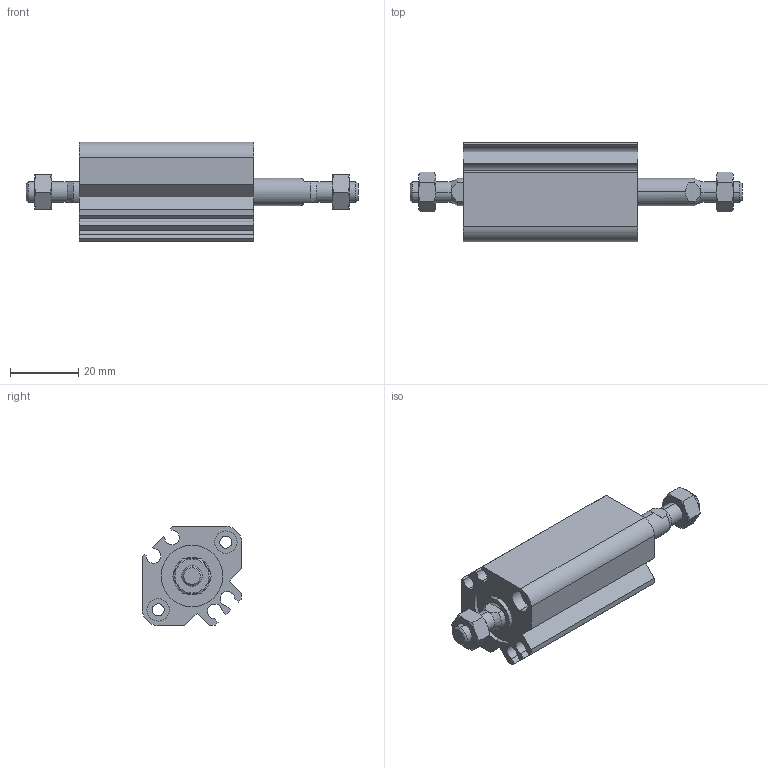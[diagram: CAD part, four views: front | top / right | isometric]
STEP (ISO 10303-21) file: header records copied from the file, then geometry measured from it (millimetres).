
FILE_DESCRIPTION (( 'STEP AP203' ), '1' );
FILE_NAME ('CCMB16-15M-P.STEP', '2020-08-10T11:05:50', ( '' ), ( '' ), 'SwSTEP 2.0', 'SolidWorks 2019', '' );
FILE_SCHEMA (( 'CONFIG_CONTROL_DESIGN' ));
Length unit declared in the file: millimetre
Products named in the file (1): CCMB16-15M-P
Bounding box: 97 x 29 x 29 mm (x, y, z)
Volume: 32374.6 mm3; surface area: 16277.5 mm2
Topology: 4 solids, 4 shells, 166 faces, 384 edges, 240 vertices
Faces by surface type: plane 66, cylinder 56, cone 44
Entity records: 5239 total; most frequent: CARTESIAN_POINT 1379, DIRECTION 806, ORIENTED_EDGE 768, EDGE_CURVE 384, AXIS2_PLACEMENT_3D 319, VERTEX_POINT 240, EDGE_LOOP 190, VECTOR 168
